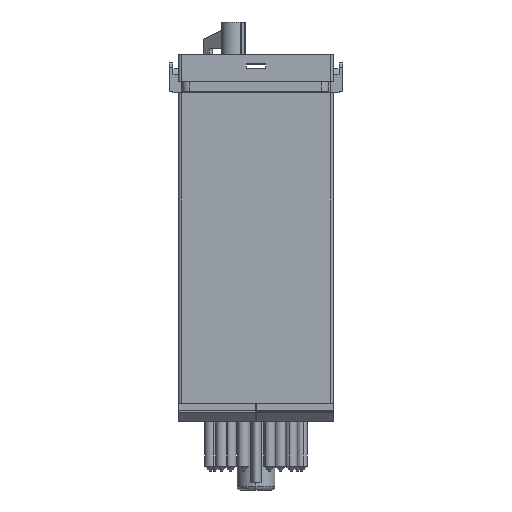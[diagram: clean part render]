
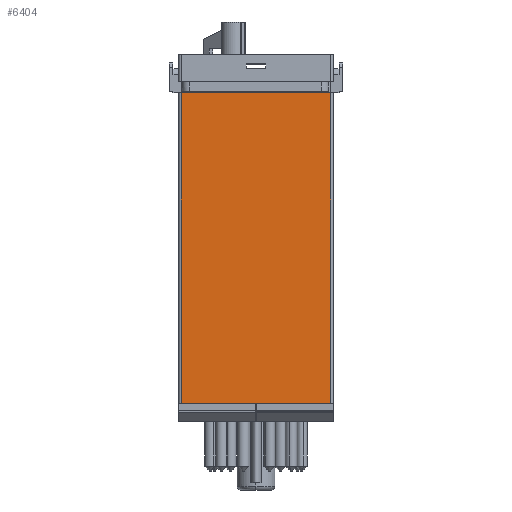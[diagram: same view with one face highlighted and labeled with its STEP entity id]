
A CAD part, front view. The second image highlights one B-rep face of the part: STEP entity #6404.
In plain terms, the highlighted planar face has unit normal (0, -1, 0).
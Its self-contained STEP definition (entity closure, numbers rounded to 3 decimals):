
#632 = EDGE_CURVE ( 'NONE', #7985, #2221, #11391, .T. ) ;
#1160 = VERTEX_POINT ( 'NONE', #9251 ) ;
#1810 = CARTESIAN_POINT ( 'NONE',  ( 18., 0.6, 14.22 ) ) ;
#2221 = VERTEX_POINT ( 'NONE', #5387 ) ;
#3590 = AXIS2_PLACEMENT_3D ( 'NONE', #1810, #20757, #12230 ) ;
#4772 = VERTEX_POINT ( 'NONE', #11146 ) ;
#4939 = CARTESIAN_POINT ( 'NONE',  ( 2., 0.6, 82.22 ) ) ;
#5300 = EDGE_CURVE ( 'NONE', #7985, #4772, #8944, .T. ) ;
#5387 = CARTESIAN_POINT ( 'NONE',  ( 2.5, 0.6, 17.92 ) ) ;
#5605 = CARTESIAN_POINT ( 'NONE',  ( 2.5, 0.6, 27.72 ) ) ;
#5894 = DIRECTION ( 'NONE',  ( -1., 0., 0. ) ) ;
#6404 = ADVANCED_FACE ( 'NONE', ( #19166 ), #6994, .F. ) ;
#6994 = PLANE ( 'NONE',  #3590 ) ;
#7042 = CARTESIAN_POINT ( 'NONE',  ( 33.5, 0.6, 25.22 ) ) ;
#7512 = DIRECTION ( 'NONE',  ( 0., 0., 1. ) ) ;
#7610 = LINE ( 'NONE', #5605, #18111 ) ;
#7985 = VERTEX_POINT ( 'NONE', #19785 ) ;
#8944 = LINE ( 'NONE', #7042, #20018 ) ;
#9251 = CARTESIAN_POINT ( 'NONE',  ( 2.5, 0.6, 82.22 ) ) ;
#9772 = ORIENTED_EDGE ( 'NONE', *, *, #10484, .F. ) ;
#10484 = EDGE_CURVE ( 'NONE', #2221, #1160, #7610, .T. ) ;
#10626 = EDGE_CURVE ( 'NONE', #1160, #4772, #15560, .T. ) ;
#11146 = CARTESIAN_POINT ( 'NONE',  ( 33.5, 0.6, 82.22 ) ) ;
#11391 = LINE ( 'NONE', #17959, #18718 ) ;
#11855 = DIRECTION ( 'NONE',  ( 0., 0., 1. ) ) ;
#12230 = DIRECTION ( 'NONE',  ( -1., 0., 0. ) ) ;
#13513 = VECTOR ( 'NONE', #20387, 1000. ) ;
#15560 = LINE ( 'NONE', #4939, #13513 ) ;
#16745 = ORIENTED_EDGE ( 'NONE', *, *, #632, .F. ) ;
#17959 = CARTESIAN_POINT ( 'NONE',  ( 2.5, 0.6, 17.92 ) ) ;
#18111 = VECTOR ( 'NONE', #7512, 1000. ) ;
#18718 = VECTOR ( 'NONE', #5894, 1000. ) ;
#19166 = FACE_OUTER_BOUND ( 'NONE', #19678, .T. ) ;
#19461 = ORIENTED_EDGE ( 'NONE', *, *, #10626, .F. ) ;
#19678 = EDGE_LOOP ( 'NONE', ( #9772, #16745, #19703, #19461 ) ) ;
#19703 = ORIENTED_EDGE ( 'NONE', *, *, #5300, .T. ) ;
#19785 = CARTESIAN_POINT ( 'NONE',  ( 33.5, 0.6, 17.92 ) ) ;
#20018 = VECTOR ( 'NONE', #11855, 1000. ) ;
#20387 = DIRECTION ( 'NONE',  ( 1., 0., 0. ) ) ;
#20757 = DIRECTION ( 'NONE',  ( 0., 1., 0. ) ) ;
